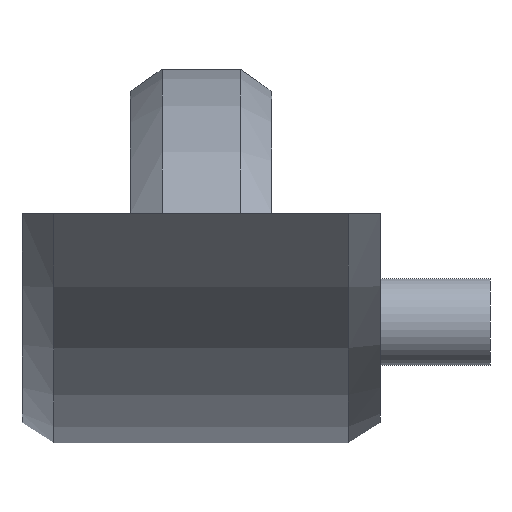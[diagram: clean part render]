
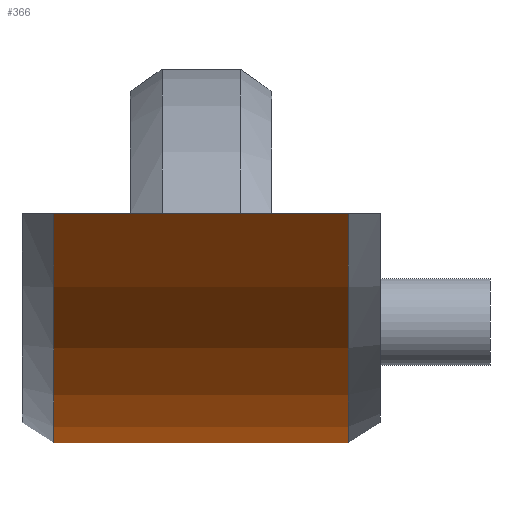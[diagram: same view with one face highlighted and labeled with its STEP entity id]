
A CAD part, front view. The second image highlights one B-rep face of the part: STEP entity #366.
In plain terms, the highlighted cylindrical face has radius 50 mm (diameter 100 mm), a partial arc.
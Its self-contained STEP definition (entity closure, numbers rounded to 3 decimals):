
#59=FACE_OUTER_BOUND('',#81,.T.);
#81=EDGE_LOOP('',(#290,#291,#292,#293));
#100=LINE('',#626,#125);
#106=LINE('',#646,#131);
#125=VECTOR('',#507,10.);
#131=VECTOR('',#513,10.);
#150=CIRCLE('',#455,50.);
#154=CIRCLE('',#462,50.);
#170=VERTEX_POINT('',#621);
#171=VERTEX_POINT('',#625);
#178=VERTEX_POINT('',#641);
#179=VERTEX_POINT('',#645);
#205=EDGE_CURVE('',#171,#170,#100,.T.);
#213=EDGE_CURVE('',#179,#178,#106,.T.);
#219=EDGE_CURVE('',#171,#178,#150,.T.);
#223=EDGE_CURVE('',#170,#179,#154,.T.);
#290=ORIENTED_EDGE('',*,*,#213,.T.);
#291=ORIENTED_EDGE('',*,*,#219,.F.);
#292=ORIENTED_EDGE('',*,*,#205,.T.);
#293=ORIENTED_EDGE('',*,*,#223,.T.);
#353=CYLINDRICAL_SURFACE('',#463,50.);
#366=ADVANCED_FACE('',(#59),#353,.T.);
#455=AXIS2_PLACEMENT_3D('',#658,#524,#525);
#462=AXIS2_PLACEMENT_3D('',#665,#538,#539);
#463=AXIS2_PLACEMENT_3D('',#666,#540,#541);
#507=DIRECTION('',(1.,0.,0.));
#513=DIRECTION('',(-1.,0.,0.));
#524=DIRECTION('center_axis',(-1.,0.,0.));
#525=DIRECTION('ref_axis',(0.,0.866,-0.5));
#538=DIRECTION('center_axis',(-1.,0.,0.));
#539=DIRECTION('ref_axis',(0.,0.866,-0.5));
#540=DIRECTION('center_axis',(-1.,0.,0.));
#541=DIRECTION('ref_axis',(0.,0.866,-0.5));
#621=CARTESIAN_POINT('',(10.2,36.661,0.));
#625=CARTESIAN_POINT('',(-10.2,36.661,0.));
#626=CARTESIAN_POINT('',(0.,36.661,0.));
#641=CARTESIAN_POINT('',(-10.2,-36.661,0.));
#645=CARTESIAN_POINT('',(10.2,-36.661,0.));
#646=CARTESIAN_POINT('',(0.,-36.661,0.));
#658=CARTESIAN_POINT('Origin',(-10.2,0.,34.));
#665=CARTESIAN_POINT('Origin',(10.2,0.,34.));
#666=CARTESIAN_POINT('Origin',(0.,0.,34.));
